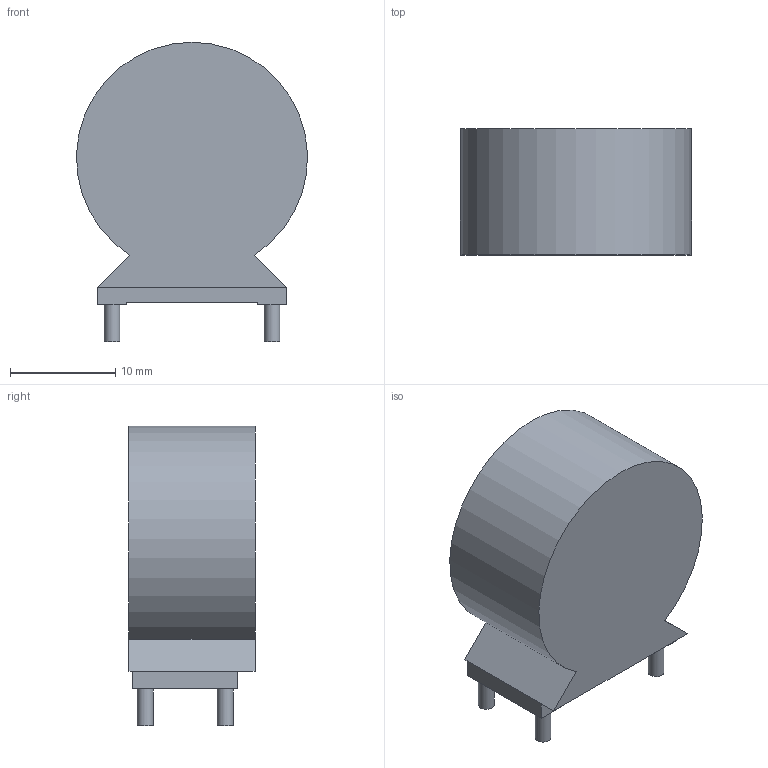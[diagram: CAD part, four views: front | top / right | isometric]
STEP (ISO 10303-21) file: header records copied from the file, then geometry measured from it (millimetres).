
FILE_DESCRIPTION(/* description */ (''),/* implementation_level */ '2;1');
FILE_NAME(/* name */ 'F:\Done\2016\产品3D模拟 新型号\修改针径\新建文件夹\6131-X402\6131-X402 3D Model.stp',/* time_stamp */ '2016-07-12T12:05:25+08:00',/* author */ ('CN000562'),/* organization */ (''),/* preprocessor_version */ 'ST-DEVELOPER v16.5',/* originating_system */ 'Autodesk Inventor 2017',/* authorisation */ '');
FILE_SCHEMA (('AUTOMOTIVE_DESIGN { 1 0 10303 214 3 1 1 }'));
Length unit declared in the file: millimetre
Products named in the file (1): 零件1
Bounding box: 21.99 x 12 x 28.5 mm (x, y, z)
Volume: 5245 mm3; surface area: 1981.3 mm2
Topology: 1 solids, 1 shells, 24 faces, 50 edges, 32 vertices
Faces by surface type: plane 19, cylinder 5
Full cylindrical faces by diameter (mm): 1.5 x4
Entity records: 642 total; most frequent: DIRECTION 106, CARTESIAN_POINT 103, ORIENTED_EDGE 92, EDGE_CURVE 46, LINE 36, VECTOR 36, AXIS2_PLACEMENT_3D 35, EDGE_LOOP 32
